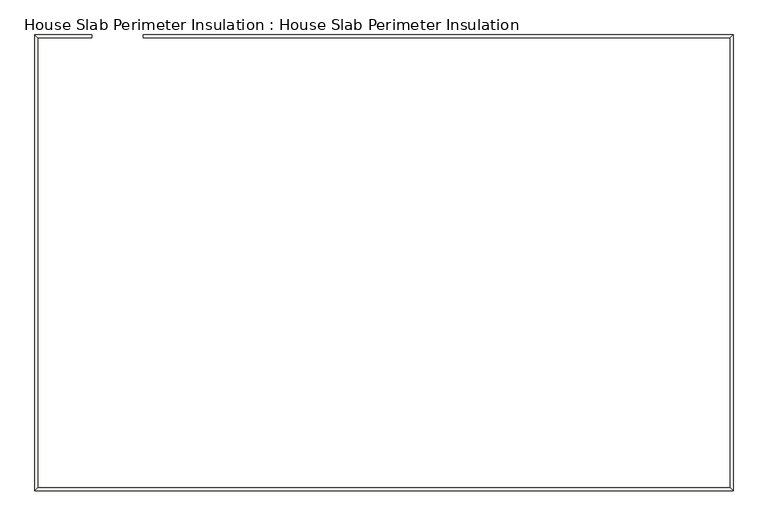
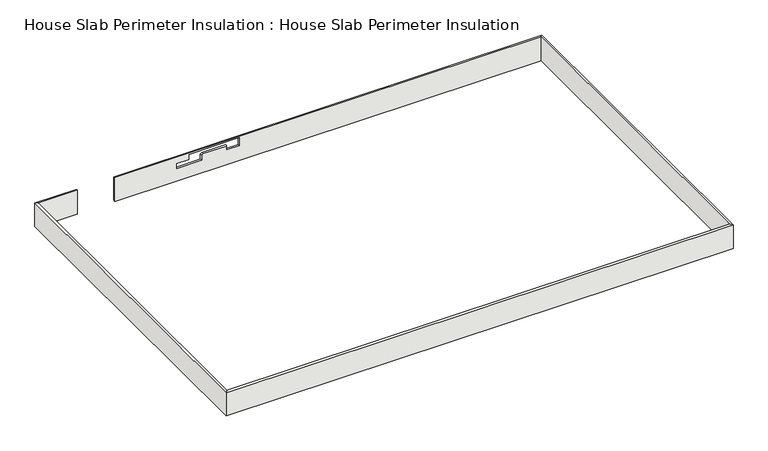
"""IFC4 building model written with IfcOpenShell, lengths in millimetres: slab geometry, House Slab Perimeter Insulation : House Slab Perimeter Insulation."""

from ifc_helpers import new_model, si_unit, origin, place, context, project, spatial, faceted_brep, source, transform, mapped, element, save


def house_slab_perimeter_insulation_house_slab_perimeter_672b7200(model_context):
    return source(origin(), model_context, "Body", "Brep", [
        faceted_brep([(-12319.9178637, 3348.5349287, -609.6), (-12319.9178637, 3399.3349287, -609.6), (-12319.9178637, 3399.3349287, -388.6398438), (-12319.9178637, 3399.3349287, -287.0398438), (-12319.9178637, 3399.3349287, -13.611819), (-12319.9178637, 3348.5349287, 0.0), (-12319.9178637, 3348.5349287, -287.0398438), (-12319.9178637, 3348.5349287, -388.6398438), (-13266.0678637, 3348.5349287, -609.6), (-13266.0678637, -4576.2650713, -609.6), (-1074.0678637, -4576.2650713, -609.6), (-1074.0678637, 3348.5349287, -609.6), (-11405.5178637, 3348.5349287, -609.6), (-11405.5178637, 3399.3349287, -609.6), (-9548.1428637, 3399.3349287, -609.6), (-9243.3428637, 3399.3349287, -609.6), (-1023.2678637, 3399.3349287, -609.6), (-1023.2678637, -4627.0650713, -609.6), (-13316.8678637, -4627.0650713, -609.6), (-13316.8678637, 3399.3349287, -609.6), (-13316.8678637, 3399.3349287, -388.6398438), (-13316.8678637, 3399.3349287, -287.0398438), (-13316.8678637, 3399.3349287, -13.611819), (-13266.0678637, 3348.5349287, 0.0), (-13316.8678637, -4627.0650713, -13.611819), (-13266.0678637, -4576.2650713, 0.0), (-1023.2678637, -4627.0650713, -13.611819), (-1074.0678637, -4576.2650713, 0.0), (-1023.2678637, 3399.3349287, -13.611819), (-1074.0678637, 3348.5349287, 0.0), (-11405.5178637, 3348.5349287, -388.6398438), (-11405.5178637, 3348.5349287, -287.0398438), (-11405.5178637, 3348.5349287, 0.0), (-11405.5178637, 3399.3349287, -13.611819), (-11405.5178637, 3399.3349287, -287.0398438), (-11405.5178637, 3399.3349287, -388.6398438), (-8389.2678637, 3399.3349287, -30.48), (-9608.4678637, 3399.3349287, -30.48), (-9608.4678637, 3399.3349287, -158.7599219), (-9913.2678637, 3399.3349287, -158.7599219), (-9913.2678637, 3399.3349287, -287.0398438), (-9303.6678637, 3399.3349287, -287.0398438), (-9303.6678637, 3399.3349287, -158.7599219), (-9276.9879418, 3399.3349287, -132.08), (-8694.0678637, 3399.3349287, -132.08), (-8694.0678637, 3399.3349287, -233.68), (-8389.2678637, 3399.3349287, -233.68), (-9608.4678637, 3348.5349287, -30.48), (-8389.2678637, 3348.5349287, -30.48), (-8389.2678637, 3348.5349287, -233.68), (-8694.0678637, 3348.5349287, -233.68), (-8694.0678637, 3348.5349287, -132.08), (-9276.9879418, 3348.5349287, -132.08), (-9303.6678637, 3348.5349287, -158.7599219), (-9303.6678637, 3348.5349287, -287.0398438), (-9913.2678637, 3348.5349287, -287.0398438), (-9913.2678637, 3348.5349287, -158.7599219), (-9608.4678637, 3348.5349287, -158.7599219)], [[[0, 1, 2, 3, 4, 5, 6, 7]], [[1, 0, 8, 9, 10, 11, 12, 13, 14, 15, 16, 17, 18, 19]], [[4, 3, 2, 1, 19, 20, 21, 22]], [[5, 4, 22, 23]], [[0, 7, 6, 5, 23, 8]], [[19, 18, 24, 22, 21, 20]], [[23, 22, 24, 25]], [[9, 8, 23, 25]], [[18, 17, 26, 24]], [[25, 24, 26, 27]], [[10, 9, 25, 27]], [[17, 16, 28, 26]], [[27, 26, 28, 29]], [[11, 10, 27, 29]], [[13, 12, 30, 31, 32, 33, 34, 35]], [[16, 15, 14, 13, 35, 34, 33, 28], [36, 37, 38, 39, 40, 41, 42, 43, 44, 45, 46]], [[29, 28, 33, 32]], [[12, 11, 29, 32, 31, 30], [47, 48, 49, 50, 51, 52, 53, 54, 55, 56, 57]], [[47, 37, 36, 48]], [[53, 42, 41, 54]], [[54, 41, 40, 55]], [[55, 40, 39, 56]], [[56, 39, 38, 57]], [[37, 47, 57, 38]], [[48, 36, 46, 49]], [[49, 46, 45, 50]], [[50, 45, 44, 51]], [[51, 44, 43, 52]], [[42, 53, 52, 43]]]),
    ])


if __name__ == "__main__":
    model = new_model("IFC4")
    model_context = context("Model", 3, world=origin())
    ifc_project = project(units=[si_unit("LENGTHUNIT", "METRE", prefix="MILLI")], contexts=[model_context])
    site = spatial("IfcSite", under=ifc_project)
    building = spatial("IfcBuilding", under=site)
    placement = place(None, origin())
    house_slab_perimeter_insulation_house_slab_perimeter_shape = house_slab_perimeter_insulation_house_slab_perimeter_672b7200(model_context)
    element("IfcSlab", 1, ObjectType="House Slab Perimeter Insulation : House Slab Perimeter Insulation", at=placement, inside=building, context=model_context, shape_type="MappedRepresentation", body=[
        mapped(house_slab_perimeter_insulation_house_slab_perimeter_shape, transform((0.0, 0.0, 0.0), x_axis=(1.0, 0.0, 0.0), y_axis=(0.0, 1.0, 0.0), z_axis=(0.0, 0.0, 1.0))),
    ])
    save(model, "model.ifc")
